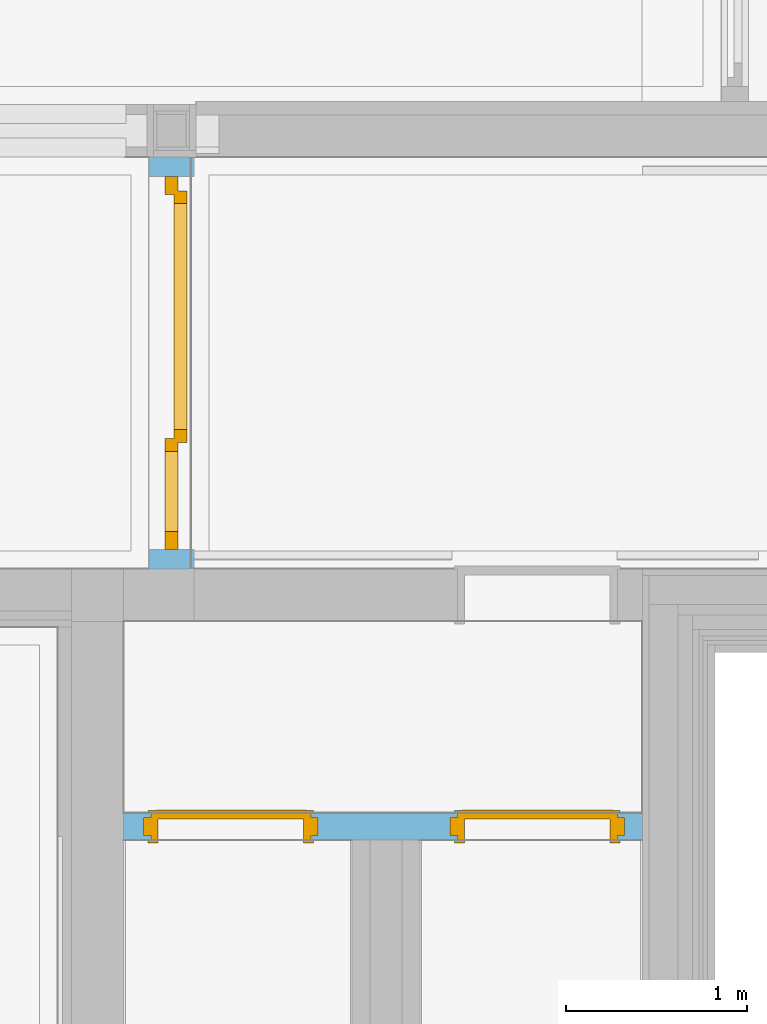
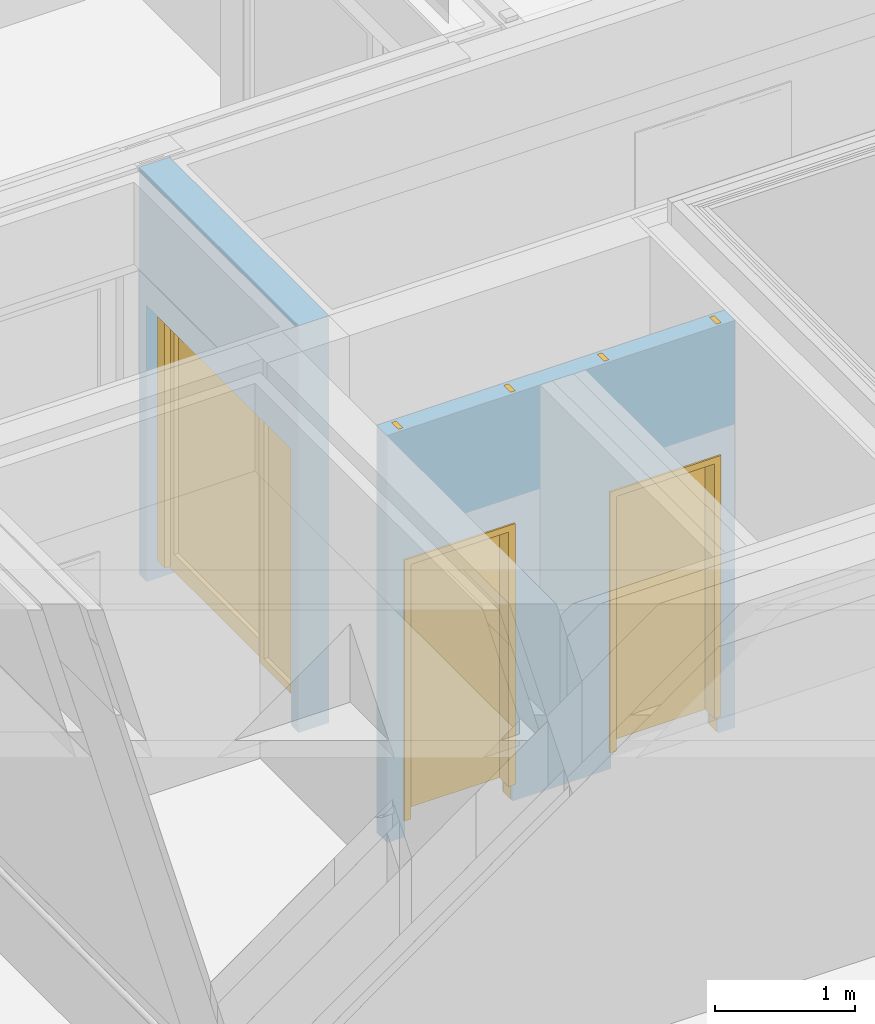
# One storey, part 92 of 222: 3 doors, 3 openings, plus 2 elements that do not belong to this part.
"""IFC4 building model written with IfcOpenShell, lengths in metres."""

from ifc_helpers import new_model, entity, si_unit, converted_unit, derived_unit, frame, frame_2d, origin, origin_with_axes, place, context, subcontext, project, spatial, polyline, rectangle, outline, extrude, closed_shell, open_shell, faceted_brep, surface_model, source, transform, mapped, material, type_object, element, fill, save


model = new_model("IFC4")

# Units and contexts
model_context = context("Model", 3, precision=1e-05, world=origin())
body_context = subcontext(model_context, "Body", "Model", "MODEL_VIEW")
ifc_project = project(units=[si_unit("LENGTHUNIT", "METRE"), si_unit("AREAUNIT", "SQUARE_METRE"), si_unit("VOLUMEUNIT", "CUBIC_METRE"), si_unit("MASSUNIT", "GRAM", prefix="KILO"), converted_unit("PLANEANGLEUNIT", "DEGREE", entity("IfcPlaneAngleMeasure", 0.0174532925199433), si_unit("PLANEANGLEUNIT", "RADIAN"), dimensions=[0, 0, 0, 0, 0, 0, 0]), derived_unit("THERMALTRANSMITTANCEUNIT", [(si_unit("POWERUNIT", "WATT"), 1), (si_unit("THERMODYNAMICTEMPERATUREUNIT", "KELVIN"), -1), (si_unit("LENGTHUNIT", "METRE"), -2)]), derived_unit("VOLUMETRICFLOWRATEUNIT", [(si_unit("LENGTHUNIT", "METRE"), 3), (converted_unit("TIMEUNIT", "hour", entity("IfcTimeMeasure", 3600.0), si_unit("TIMEUNIT", "SECOND"), dimensions=[0, 0, 1, 0, 0, 0, 0]), -1), (si_unit("LENGTHUNIT", "METRE"), -1)])], contexts=[model_context])

# Site, building, storey
site_placement = place(None, origin())
site = spatial("IfcSite", under=ifc_project, at=site_placement, Name="Psychiatrie Neubau Wunstorf", CompositionType="ELEMENT")
building_placement = place(site_placement, origin())
building = spatial("IfcBuilding", under=site, at=building_placement, Name="Neubau H2 Stationsgebäude", CompositionType="ELEMENT")
storey_placement = place(building_placement, frame((0.0, 0.0, 3.6)))
storey = spatial("IfcBuildingStorey", under=building, at=storey_placement, Name="H2 Ebene +1", CompositionType="ELEMENT", Elevation=3.6)

# Wall, opening, door
ifc_material_1 = material(Name="WI-LW 60")
wall_1_placement = place(storey_placement, frame((41.208, 22.8639990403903, 0.0), z_axis=(0.0, 0.0, 1.0), x_axis=(0.0, -1.0, 0.0)))
wall_1 = element("IfcWall", 1, at=wall_1_placement, inside=storey, material=ifc_material_1, context=body_context, shape_type="SweptSolid", body=[
    extrude(rectangle(XDim=2.27800098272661, YDim=0.25, at=frame_2d((1.13900049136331, 0.125), x_axis=(1.0, 0.0))), origin_with_axes(), (0.0, 0.0, 1.0), 3.55),
])
opening_1_placement = place(wall_1_placement, frame((0.107499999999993, 0.0, 0.0), z_axis=(0.0, 1.0, 0.0), x_axis=(0.0, 0.0, 1.0)))
opening_1 = element("IfcOpeningElement", 2, at=opening_1_placement, cuts=wall_1, Name="Türöffnung", ObjectType="Opening", context=body_context, shape_type="SweptSolid", body=[
    extrude(outline(polyline([(2.41, 2.063), (2.41, 0.0), (0.0, 0.0), (0.0, 2.063), (2.41, 2.063)])), origin_with_axes(), (0.0, 0.0, 1.0), 0.25),
])
ifc_material_2 = material(Name="TI-1F-SG-D-M")
shared_shape_1 = source(origin_with_axes(), body_context, "Body", "Brep", [
    faceted_brep([(-0.107499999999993, -0.0450000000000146, 0.0), (-0.0274999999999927, -0.0450000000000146, 0.0), (-0.0274999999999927, 0.114999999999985, 0.0), (-0.107499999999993, 0.114999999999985, 0.0), (-0.107499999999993, 0.114999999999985, 3.55), (-0.0274999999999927, 0.114999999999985, 3.55), (-0.0274999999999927, -0.0450000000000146, 3.55), (-0.107499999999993, -0.0450000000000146, 3.55)], [[[0, 1, 2, 3]], [[4, 5, 6, 7]], [[3, 4, 7, 0]], [[2, 5, 4, 3]], [[1, 6, 5, 2]], [[0, 7, 6, 1]]], orient=[[False], [False], [False], [False], [False], [False]]),
    faceted_brep([(2.09050000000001, -0.0450000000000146, 0.0), (2.17050000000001, -0.0450000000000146, 0.0), (2.17050000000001, 0.114999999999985, 0.0), (2.09050000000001, 0.114999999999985, 0.0), (2.09050000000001, 0.114999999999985, 3.55), (2.17050000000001, 0.114999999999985, 3.55), (2.17050000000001, -0.0450000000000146, 3.55), (2.09050000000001, -0.0450000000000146, 3.55)], [[[0, 1, 2, 3]], [[4, 5, 6, 7]], [[3, 4, 7, 0]], [[2, 5, 4, 3]], [[1, 6, 5, 2]], [[0, 7, 6, 1]]], orient=[[False], [False], [False], [False], [False], [False]]),
    faceted_brep([(-0.0274999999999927, -0.0450000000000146, 2.4375), (2.09050000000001, -0.0450000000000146, 2.4375), (2.09050000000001, 0.114999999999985, 2.4375), (-0.0274999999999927, 0.114999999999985, 2.4375), (-0.0274999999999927, 0.114999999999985, 2.5175), (2.09050000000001, 0.114999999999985, 2.5175), (2.09050000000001, -0.0450000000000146, 2.5175), (-0.0274999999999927, -0.0450000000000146, 2.5175)], [[[0, 1, 2, 3]], [[4, 5, 6, 7]], [[3, 4, 7, 0]], [[2, 5, 4, 3]], [[1, 6, 5, 2]], [[0, 7, 6, 1]]], orient=[[False], [False], [False], [False], [False], [False]]),
])
shared_shape_2 = source(origin_with_axes(), body_context, "Body", "SurfaceModel", [
    surface_model("IfcShellBasedSurfaceModel", [(0.0, 0.0, 2.41), (0.100000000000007, 0.0, 2.41), (0.100000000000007, 0.0, 0.15), (0.0, 0.0, 0.15), (0.0, 0.0699999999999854, 0.15), (0.100000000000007, 0.0699999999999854, 0.15), (0.100000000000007, 0.0699999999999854, 2.41), (0.0, 0.0699999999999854, 2.41)], [closed_shell([[[0, 1, 2, 3]], [[4, 5, 6, 7]], [[3, 4, 7, 0]], [[2, 5, 4, 3]], [[1, 6, 5, 2]], [[0, 7, 6, 1]]], orient=[[False], [False], [False], [False], [False], [False]])]),
    surface_model("IfcShellBasedSurfaceModel", [(1.96300000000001, 0.0, 2.41), (2.06300000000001, 0.0, 2.41), (2.06300000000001, 0.0, 0.15), (1.96300000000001, 0.0, 0.15), (1.96300000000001, 0.0699999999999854, 0.15), (2.06300000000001, 0.0699999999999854, 0.15), (2.06300000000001, 0.0699999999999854, 2.41), (1.96300000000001, 0.0699999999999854, 2.41)], [closed_shell([[[0, 1, 2, 3]], [[4, 5, 6, 7]], [[3, 4, 7, 0]], [[2, 5, 4, 3]], [[1, 6, 5, 2]], [[0, 7, 6, 1]]], orient=[[False], [False], [False], [False], [False], [False]])]),
    surface_model("IfcShellBasedSurfaceModel", [(0.100000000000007, 0.0, 2.41), (1.96300000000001, 0.0, 2.41), (1.96300000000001, 0.0, 2.31), (0.100000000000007, 0.0, 2.31), (0.100000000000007, 0.0699999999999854, 2.31), (1.96300000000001, 0.0699999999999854, 2.31), (1.96300000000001, 0.0699999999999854, 2.41), (0.100000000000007, 0.0699999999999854, 2.41)], [closed_shell([[[0, 1, 2, 3]], [[4, 5, 6, 7]], [[3, 4, 7, 0]], [[2, 5, 4, 3]], [[1, 6, 5, 2]], [[0, 7, 6, 1]]], orient=[[False], [False], [False], [False], [False], [False]])]),
    surface_model("IfcShellBasedSurfaceModel", [(1.45000000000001, 0.0, 2.31), (1.52000000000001, 0.0, 2.31), (1.52000000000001, 0.0, 0.15), (1.45000000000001, 0.0, 0.15), (1.45000000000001, 0.0699999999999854, 0.15), (1.52000000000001, 0.0699999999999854, 0.15), (1.52000000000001, 0.0699999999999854, 2.31), (1.45000000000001, 0.0699999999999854, 2.31)], [closed_shell([[[0, 1, 2, 3]], [[4, 5, 6, 7]], [[3, 4, 7, 0]], [[2, 5, 4, 3]], [[1, 6, 5, 2]], [[0, 7, 6, 1]]], orient=[[False], [False], [False], [False], [False], [False]])]),
    surface_model("IfcShellBasedSurfaceModel", [(0.0800000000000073, 0.0499999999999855, 2.33), (0.150000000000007, 0.0499999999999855, 2.33), (0.150000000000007, 0.0499999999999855, 0.13), (0.0800000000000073, 0.0499999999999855, 0.13), (0.0800000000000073, 0.119999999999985, 0.13), (0.150000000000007, 0.119999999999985, 0.13), (0.150000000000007, 0.119999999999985, 2.33), (0.0800000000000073, 0.119999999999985, 2.33)], [closed_shell([[[0, 1, 2, 3]], [[4, 5, 6, 7]], [[3, 4, 7, 0]], [[2, 5, 4, 3]], [[1, 6, 5, 2]], [[0, 7, 6, 1]]], orient=[[False], [False], [False], [False], [False], [False]])]),
    surface_model("IfcShellBasedSurfaceModel", [(1.40000000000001, 0.0499999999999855, 2.33), (1.47000000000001, 0.0499999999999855, 2.33), (1.47000000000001, 0.0499999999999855, 0.13), (1.40000000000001, 0.0499999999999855, 0.13), (1.40000000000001, 0.119999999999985, 0.13), (1.47000000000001, 0.119999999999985, 0.13), (1.47000000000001, 0.119999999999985, 2.33), (1.40000000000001, 0.119999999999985, 2.33)], [closed_shell([[[0, 1, 2, 3]], [[4, 5, 6, 7]], [[3, 4, 7, 0]], [[2, 5, 4, 3]], [[1, 6, 5, 2]], [[0, 7, 6, 1]]], orient=[[False], [False], [False], [False], [False], [False]])]),
    surface_model("IfcShellBasedSurfaceModel", [(0.150000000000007, 0.0499999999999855, 0.28), (1.40000000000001, 0.0499999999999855, 0.28), (1.40000000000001, 0.0499999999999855, 0.13), (0.150000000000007, 0.0499999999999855, 0.13), (0.150000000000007, 0.119999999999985, 0.13), (1.40000000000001, 0.119999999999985, 0.13), (1.40000000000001, 0.119999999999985, 0.28), (0.150000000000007, 0.119999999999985, 0.28)], [closed_shell([[[0, 1, 2, 3]], [[4, 5, 6, 7]], [[3, 4, 7, 0]], [[2, 5, 4, 3]], [[1, 6, 5, 2]], [[0, 7, 6, 1]]], orient=[[False], [False], [False], [False], [False], [False]])]),
    surface_model("IfcShellBasedSurfaceModel", [(0.150000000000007, 0.0499999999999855, 2.33), (1.40000000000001, 0.0499999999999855, 2.33), (1.40000000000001, 0.0499999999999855, 2.26), (0.150000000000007, 0.0499999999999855, 2.26), (0.150000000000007, 0.119999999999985, 2.26), (1.40000000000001, 0.119999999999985, 2.26), (1.40000000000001, 0.119999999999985, 2.33), (0.150000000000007, 0.119999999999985, 2.33)], [closed_shell([[[0, 1, 2, 3]], [[4, 5, 6, 7]], [[3, 4, 7, 0]], [[2, 5, 4, 3]], [[1, 6, 5, 2]], [[0, 7, 6, 1]]], orient=[[False], [False], [False], [False], [False], [False]])]),
    surface_model("IfcShellBasedSurfaceModel", [(1.52000000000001, 0.0, 0.22), (1.96300000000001, 0.0, 0.22), (1.96300000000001, 0.0, 0.15), (1.52000000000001, 0.0, 0.15), (1.52000000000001, 0.0699999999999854, 0.15), (1.96300000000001, 0.0699999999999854, 0.15), (1.96300000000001, 0.0699999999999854, 0.22), (1.52000000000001, 0.0699999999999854, 0.22)], [closed_shell([[[0, 1, 2, 3]], [[4, 5, 6, 7]], [[3, 4, 7, 0]], [[2, 5, 4, 3]], [[1, 6, 5, 2]], [[0, 7, 6, 1]]], orient=[[False], [False], [False], [False], [False], [False]])]),
    surface_model("IfcShellBasedSurfaceModel", [(0.150000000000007, 0.0849999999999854, 0.28), (0.150000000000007, 0.0849999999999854, 2.26), (1.40000000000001, 0.0849999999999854, 2.26), (1.40000000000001, 0.0849999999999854, 0.28)], [open_shell([[[0, 1, 2, 3]]], orient=[[False]])]),
    surface_model("IfcShellBasedSurfaceModel", [(1.52000000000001, 0.0349999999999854, 0.22), (1.52000000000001, 0.0349999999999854, 2.31), (1.96300000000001, 0.0349999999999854, 2.31), (1.96300000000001, 0.0349999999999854, 0.22)], [open_shell([[[0, 1, 2, 3]]], orient=[[False]])]),
])
door_1_placement = place(opening_1_placement, frame((0.0, 0.0, 0.09), z_axis=(1.0, 0.0, 0.0), x_axis=(0.0, 1.0, 0.0)))
door_1 = element("IfcDoor", 3, at=door_1_placement, inside=storey, material=ifc_material_2, Name="SMT", OperationType="USERDEFINED", OverallHeight=2.41, OverallWidth=2.063, PredefinedType="DOOR", context=body_context, shape_type="MappedRepresentation", body=[
    mapped(shared_shape_1, transform((0.0, 0.0, 0.0), x_axis=(1.0, 0.0, 0.0), y_axis=(0.0, 1.0, 0.0), z_axis=(0.0, 0.0, 1.0), scale=1.0)),
    mapped(shared_shape_2, transform((0.0, 0.0, 0.0), x_axis=(1.0, 0.0, 0.0), y_axis=(0.0, 1.0, 0.0), z_axis=(0.0, 0.0, 1.0), scale=1.0)),
])
fill(opening_1, door_1)

# Wall, openings, doors
ifc_material_3 = material(Name="WI-LB")
wall_2_placement = place(storey_placement, frame((43.9390000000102, 19.2350060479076, 0.0), z_axis=(0.0, 0.0, 1.0), x_axis=(-1.0, 0.0, 0.0)))
wall_2 = element("IfcWall", 4, at=wall_2_placement, inside=storey, material=ifc_material_3, context=body_context, shape_type="SweptSolid", body=[
    extrude(rectangle(XDim=2.87000000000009, YDim=0.15, at=frame_2d((1.43500000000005, 0.075), x_axis=(1.0, 0.0))), origin_with_axes(), (0.0, 0.0, 1.0), 3.55),
])
opening_2_placement = place(wall_2_placement, frame((1.02400000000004, 0.15, 0.0), z_axis=(0.0, -1.0, 0.0), x_axis=(0.0, 0.0, 1.0)))
opening_2 = element("IfcOpeningElement", 5, at=opening_2_placement, cuts=wall_2, Name="Türöffnung", ObjectType="Opening", context=body_context, shape_type="SweptSolid", body=[
    extrude(outline(polyline([(2.41, 0.885), (2.41, 0.0), (0.0, 0.0), (0.0, 0.885), (2.41, 0.885)])), origin_with_axes(), (0.0, 0.0, 1.0), 0.149999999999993),
])
opening_3_placement = place(wall_2_placement, frame((2.72000000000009, 0.15, 0.0), z_axis=(0.0, -1.0, 0.0), x_axis=(0.0, 0.0, 1.0)))
opening_3 = element("IfcOpeningElement", 6, at=opening_3_placement, cuts=wall_2, Name="Türöffnung", ObjectType="Opening", context=body_context, shape_type="SweptSolid", body=[
    extrude(outline(polyline([(2.41, 0.885), (2.41, 0.0), (0.0, 0.0), (0.0, 0.885), (2.41, 0.885)])), origin_with_axes(), (0.0, 0.0, 1.0), 0.149999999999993),
])
ifc_material_4 = material(Name="TI-1F-UZ-D-N")
door_type_1 = type_object("IfcDoorType", Name="SMT", OperationType="SINGLE_SWING_RIGHT", ParameterTakesPrecedence=False, PredefinedType="DOOR")
shared_shape_3 = source(origin_with_axes(), body_context, "Body", "Brep", [
    faceted_brep([(0.925, 0.025, 0.0), (0.925, 0.124999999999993, 0.0), (0.885, 0.124999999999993, 0.0), (0.885, 0.025, 0.0), (0.925, 0.124999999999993, 3.55), (0.925, 0.025, 3.55), (0.885, 0.025, 3.55), (0.885, 0.124999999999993, 3.55)], [[[0, 1, 2, 3]], [[4, 5, 6, 7]], [[1, 0, 5, 4]], [[2, 1, 4, 7]], [[3, 2, 7, 6]], [[0, 3, 6, 5]]], orient=[[False], [False], [False], [False], [False], [False]]),
    faceted_brep([(0.0, 0.025, 0.0), (0.0, 0.124999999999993, 0.0), (-0.0400000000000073, 0.124999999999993, 0.0), (-0.0400000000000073, 0.025, 0.0), (0.0, 0.124999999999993, 3.55), (0.0, 0.025, 3.55), (-0.0400000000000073, 0.025, 3.55), (-0.0400000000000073, 0.124999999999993, 3.55)], [[[0, 1, 2, 3]], [[4, 5, 6, 7]], [[1, 0, 5, 4]], [[2, 1, 4, 7]], [[3, 2, 7, 6]], [[0, 3, 6, 5]]], orient=[[False], [False], [False], [False], [False], [False]]),
    faceted_brep([(0.885, 0.025, 2.41), (0.885, 0.124999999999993, 2.41), (0.0, 0.124999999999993, 2.41), (0.0, 0.025, 2.41), (0.885, 0.124999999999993, 2.45), (0.885, 0.025, 2.45), (0.0, 0.025, 2.45), (0.0, 0.124999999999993, 2.45)], [[[0, 1, 2, 3]], [[4, 5, 6, 7]], [[1, 0, 5, 4]], [[2, 1, 4, 7]], [[3, 2, 7, 6]], [[0, 3, 6, 5]]], orient=[[False], [False], [False], [False], [False], [False]]),
])
shared_shape_4 = source(origin_with_axes(), body_context, "Body", "Brep", [
    faceted_brep([(0.885, -0.015, 2.41), (0.885, -0.015, 0.15), (0.845, -0.015, 0.15), (0.845, -0.015, 2.41), (0.885, 0.164999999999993, 0.15), (0.885, 0.164999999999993, 2.41), (0.845, 0.164999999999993, 2.41), (0.845, 0.164999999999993, 0.15)], [[[0, 1, 2, 3]], [[4, 5, 6, 7]], [[1, 0, 5, 4]], [[2, 1, 4, 7]], [[3, 2, 7, 6]], [[0, 3, 6, 5]]], orient=[[False], [False], [False], [False], [False], [False]]),
    faceted_brep([(0.885, -0.015, 2.425), (0.9, -0.015, 2.425), (0.9, -0.015, 0.15), (0.885, -0.015, 0.15), (0.885, 0.0, 0.15), (0.9, 0.0, 0.15), (0.9, 0.0, 2.425), (0.885, 0.0, 2.425)], [[[0, 1, 2, 3]], [[4, 5, 6, 7]], [[3, 4, 7, 0]], [[2, 5, 4, 3]], [[1, 6, 5, 2]], [[0, 7, 6, 1]]], orient=[[False], [False], [False], [False], [False], [False]]),
    faceted_brep([(0.885, 0.149999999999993, 2.425), (0.9, 0.149999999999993, 2.425), (0.9, 0.149999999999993, 0.15), (0.885, 0.149999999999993, 0.15), (0.885, 0.164999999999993, 0.15), (0.9, 0.164999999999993, 0.15), (0.9, 0.164999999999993, 2.425), (0.885, 0.164999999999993, 2.425)], [[[0, 1, 2, 3]], [[4, 5, 6, 7]], [[3, 4, 7, 0]], [[2, 5, 4, 3]], [[1, 6, 5, 2]], [[0, 7, 6, 1]]], orient=[[False], [False], [False], [False], [False], [False]]),
    faceted_brep([(0.0399999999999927, -0.015, 2.41), (0.0399999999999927, -0.015, 0.15), (0.0, -0.015, 0.15), (0.0, -0.015, 2.41), (0.0399999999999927, 0.164999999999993, 0.15), (0.0399999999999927, 0.164999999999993, 2.41), (0.0, 0.164999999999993, 2.41), (0.0, 0.164999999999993, 0.15)], [[[0, 1, 2, 3]], [[4, 5, 6, 7]], [[1, 0, 5, 4]], [[2, 1, 4, 7]], [[3, 2, 7, 6]], [[0, 3, 6, 5]]], orient=[[False], [False], [False], [False], [False], [False]]),
    faceted_brep([(0.0, -0.015, 2.425), (0.0, -0.015, 0.15), (-0.0150000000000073, -0.015, 0.15), (-0.0150000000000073, -0.015, 2.425), (0.0, 0.0, 0.15), (0.0, 0.0, 2.425), (-0.0150000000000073, 0.0, 2.425), (-0.0150000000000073, 0.0, 0.15)], [[[0, 1, 2, 3]], [[4, 5, 6, 7]], [[1, 0, 5, 4]], [[2, 1, 4, 7]], [[3, 2, 7, 6]], [[0, 3, 6, 5]]], orient=[[False], [False], [False], [False], [False], [False]]),
    faceted_brep([(0.0, 0.149999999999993, 2.425), (0.0, 0.149999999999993, 0.15), (-0.0150000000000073, 0.149999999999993, 0.15), (-0.0150000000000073, 0.149999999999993, 2.425), (0.0, 0.164999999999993, 0.15), (0.0, 0.164999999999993, 2.425), (-0.0150000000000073, 0.164999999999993, 2.425), (-0.0150000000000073, 0.164999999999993, 0.15)], [[[0, 1, 2, 3]], [[4, 5, 6, 7]], [[1, 0, 5, 4]], [[2, 1, 4, 7]], [[3, 2, 7, 6]], [[0, 3, 6, 5]]], orient=[[False], [False], [False], [False], [False], [False]]),
    faceted_brep([(0.845, -0.015, 2.41), (0.845, -0.015, 2.37), (0.0399999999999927, -0.015, 2.37), (0.0399999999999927, -0.015, 2.41), (0.845, 0.164999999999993, 2.37), (0.845, 0.164999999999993, 2.41), (0.0399999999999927, 0.164999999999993, 2.41), (0.0399999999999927, 0.164999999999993, 2.37)], [[[0, 1, 2, 3]], [[4, 5, 6, 7]], [[1, 0, 5, 4]], [[2, 1, 4, 7]], [[3, 2, 7, 6]], [[0, 3, 6, 5]]], orient=[[False], [False], [False], [False], [False], [False]]),
    faceted_brep([(0.885, -0.015, 2.425), (0.885, -0.015, 2.41), (0.0, -0.015, 2.41), (0.0, -0.015, 2.425), (0.885, 0.0, 2.41), (0.885, 0.0, 2.425), (0.0, 0.0, 2.425), (0.0, 0.0, 2.41)], [[[0, 1, 2, 3]], [[4, 5, 6, 7]], [[1, 0, 5, 4]], [[2, 1, 4, 7]], [[3, 2, 7, 6]], [[0, 3, 6, 5]]], orient=[[False], [False], [False], [False], [False], [False]]),
    faceted_brep([(0.885, 0.149999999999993, 2.425), (0.885, 0.149999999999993, 2.41), (0.0, 0.149999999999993, 2.41), (0.0, 0.149999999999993, 2.425), (0.885, 0.164999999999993, 2.41), (0.885, 0.164999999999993, 2.425), (0.0, 0.164999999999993, 2.425), (0.0, 0.164999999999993, 2.41)], [[[0, 1, 2, 3]], [[4, 5, 6, 7]], [[1, 0, 5, 4]], [[2, 1, 4, 7]], [[3, 2, 7, 6]], [[0, 3, 6, 5]]], orient=[[False], [False], [False], [False], [False], [False]]),
    faceted_brep([(0.86, 0.115999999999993, 2.385), (0.86, 0.115999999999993, 0.15), (0.0249999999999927, 0.115999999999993, 0.15), (0.0249999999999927, 0.115999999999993, 2.385), (0.86, 0.165999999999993, 0.15), (0.86, 0.165999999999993, 2.385), (0.0249999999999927, 0.165999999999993, 2.385), (0.0249999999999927, 0.165999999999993, 0.15)], [[[0, 1, 2, 3]], [[4, 5, 6, 7]], [[1, 0, 5, 4]], [[2, 1, 4, 7]], [[3, 2, 7, 6]], [[0, 3, 6, 5]]], orient=[[False], [False], [False], [False], [False], [False]]),
])
door_2_placement = place(opening_2_placement, frame((0.0, 0.0, 0.0), z_axis=(1.0, 0.0, 0.0), x_axis=(0.0, 1.0, 0.0)))
door_2 = element("IfcDoor", 7, at=door_2_placement, inside=storey, type_object=door_type_1, material=ifc_material_4, Name="SMT", OverallHeight=2.41, OverallWidth=0.885, context=body_context, shape_type="MappedRepresentation", body=[
    mapped(shared_shape_3, transform((0.0, 0.0, 0.0), x_axis=(1.0, 0.0, 0.0), y_axis=(0.0, 1.0, 0.0), z_axis=(0.0, 0.0, 1.0), scale=1.0)),
    mapped(shared_shape_4, transform((0.0, 0.0, 0.0), x_axis=(1.0, 0.0, 0.0), y_axis=(0.0, 1.0, 0.0), z_axis=(0.0, 0.0, 1.0), scale=1.0)),
])
fill(opening_2, door_2)
ifc_material_5 = material(Name="TI-1F-UZ-D-N")
door_type_2 = type_object("IfcDoorType", Name="SMT", OperationType="SINGLE_SWING_RIGHT", ParameterTakesPrecedence=False, PredefinedType="DOOR")
shared_shape_5 = source(origin_with_axes(), body_context, "Body", "Brep", [
    faceted_brep([(0.925, 0.025, 0.0), (0.925, 0.124999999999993, 0.0), (0.885, 0.124999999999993, 0.0), (0.885, 0.025, 0.0), (0.925, 0.124999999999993, 3.55), (0.925, 0.025, 3.55), (0.885, 0.025, 3.55), (0.885, 0.124999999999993, 3.55)], [[[0, 1, 2, 3]], [[4, 5, 6, 7]], [[1, 0, 5, 4]], [[2, 1, 4, 7]], [[3, 2, 7, 6]], [[0, 3, 6, 5]]], orient=[[False], [False], [False], [False], [False], [False]]),
    faceted_brep([(0.0, 0.025, 0.0), (0.0, 0.124999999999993, 0.0), (-0.0400000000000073, 0.124999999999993, 0.0), (-0.0400000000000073, 0.025, 0.0), (0.0, 0.124999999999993, 3.55), (0.0, 0.025, 3.55), (-0.0400000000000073, 0.025, 3.55), (-0.0400000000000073, 0.124999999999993, 3.55)], [[[0, 1, 2, 3]], [[4, 5, 6, 7]], [[1, 0, 5, 4]], [[2, 1, 4, 7]], [[3, 2, 7, 6]], [[0, 3, 6, 5]]], orient=[[False], [False], [False], [False], [False], [False]]),
    faceted_brep([(0.885, 0.025, 2.41), (0.885, 0.124999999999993, 2.41), (0.0, 0.124999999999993, 2.41), (0.0, 0.025, 2.41), (0.885, 0.124999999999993, 2.45), (0.885, 0.025, 2.45), (0.0, 0.025, 2.45), (0.0, 0.124999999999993, 2.45)], [[[0, 1, 2, 3]], [[4, 5, 6, 7]], [[1, 0, 5, 4]], [[2, 1, 4, 7]], [[3, 2, 7, 6]], [[0, 3, 6, 5]]], orient=[[False], [False], [False], [False], [False], [False]]),
])
shared_shape_6 = source(origin_with_axes(), body_context, "Body", "Brep", [
    faceted_brep([(0.0, -0.015, 2.41), (0.0399999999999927, -0.015, 2.41), (0.0399999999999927, -0.015, 0.15), (0.0, -0.015, 0.15), (0.0, 0.164999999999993, 0.15), (0.0399999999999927, 0.164999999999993, 0.15), (0.0399999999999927, 0.164999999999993, 2.41), (0.0, 0.164999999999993, 2.41)], [[[0, 1, 2, 3]], [[4, 5, 6, 7]], [[3, 4, 7, 0]], [[2, 5, 4, 3]], [[1, 6, 5, 2]], [[0, 7, 6, 1]]], orient=[[False], [False], [False], [False], [False], [False]]),
    faceted_brep([(0.0, -0.015, 2.425), (0.0, -0.015, 0.15), (-0.0150000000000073, -0.015, 0.15), (-0.0150000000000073, -0.015, 2.425), (0.0, 0.0, 0.15), (0.0, 0.0, 2.425), (-0.0150000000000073, 0.0, 2.425), (-0.0150000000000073, 0.0, 0.15)], [[[0, 1, 2, 3]], [[4, 5, 6, 7]], [[1, 0, 5, 4]], [[2, 1, 4, 7]], [[3, 2, 7, 6]], [[0, 3, 6, 5]]], orient=[[False], [False], [False], [False], [False], [False]]),
    faceted_brep([(0.0, 0.149999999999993, 2.425), (0.0, 0.149999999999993, 0.15), (-0.0150000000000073, 0.149999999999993, 0.15), (-0.0150000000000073, 0.149999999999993, 2.425), (0.0, 0.164999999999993, 0.15), (0.0, 0.164999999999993, 2.425), (-0.0150000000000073, 0.164999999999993, 2.425), (-0.0150000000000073, 0.164999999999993, 0.15)], [[[0, 1, 2, 3]], [[4, 5, 6, 7]], [[1, 0, 5, 4]], [[2, 1, 4, 7]], [[3, 2, 7, 6]], [[0, 3, 6, 5]]], orient=[[False], [False], [False], [False], [False], [False]]),
    faceted_brep([(0.845, -0.015, 2.41), (0.885, -0.015, 2.41), (0.885, -0.015, 0.15), (0.845, -0.015, 0.15), (0.845, 0.164999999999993, 0.15), (0.885, 0.164999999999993, 0.15), (0.885, 0.164999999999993, 2.41), (0.845, 0.164999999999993, 2.41)], [[[0, 1, 2, 3]], [[4, 5, 6, 7]], [[3, 4, 7, 0]], [[2, 5, 4, 3]], [[1, 6, 5, 2]], [[0, 7, 6, 1]]], orient=[[False], [False], [False], [False], [False], [False]]),
    faceted_brep([(0.885, -0.015, 2.425), (0.9, -0.015, 2.425), (0.9, -0.015, 0.15), (0.885, -0.015, 0.15), (0.885, 0.0, 0.15), (0.9, 0.0, 0.15), (0.9, 0.0, 2.425), (0.885, 0.0, 2.425)], [[[0, 1, 2, 3]], [[4, 5, 6, 7]], [[3, 4, 7, 0]], [[2, 5, 4, 3]], [[1, 6, 5, 2]], [[0, 7, 6, 1]]], orient=[[False], [False], [False], [False], [False], [False]]),
    faceted_brep([(0.885, 0.149999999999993, 2.425), (0.9, 0.149999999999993, 2.425), (0.9, 0.149999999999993, 0.15), (0.885, 0.149999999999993, 0.15), (0.885, 0.164999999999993, 0.15), (0.9, 0.164999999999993, 0.15), (0.9, 0.164999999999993, 2.425), (0.885, 0.164999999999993, 2.425)], [[[0, 1, 2, 3]], [[4, 5, 6, 7]], [[3, 4, 7, 0]], [[2, 5, 4, 3]], [[1, 6, 5, 2]], [[0, 7, 6, 1]]], orient=[[False], [False], [False], [False], [False], [False]]),
    faceted_brep([(0.0399999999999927, -0.015, 2.41), (0.845, -0.015, 2.41), (0.845, -0.015, 2.37), (0.0399999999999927, -0.015, 2.37), (0.0399999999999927, 0.164999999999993, 2.37), (0.845, 0.164999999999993, 2.37), (0.845, 0.164999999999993, 2.41), (0.0399999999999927, 0.164999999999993, 2.41)], [[[0, 1, 2, 3]], [[4, 5, 6, 7]], [[3, 4, 7, 0]], [[2, 5, 4, 3]], [[1, 6, 5, 2]], [[0, 7, 6, 1]]], orient=[[False], [False], [False], [False], [False], [False]]),
    faceted_brep([(0.0, -0.015, 2.425), (0.885, -0.015, 2.425), (0.885, -0.015, 2.41), (0.0, -0.015, 2.41), (0.0, 0.0, 2.41), (0.885, 0.0, 2.41), (0.885, 0.0, 2.425), (0.0, 0.0, 2.425)], [[[0, 1, 2, 3]], [[4, 5, 6, 7]], [[3, 4, 7, 0]], [[2, 5, 4, 3]], [[1, 6, 5, 2]], [[0, 7, 6, 1]]], orient=[[False], [False], [False], [False], [False], [False]]),
    faceted_brep([(0.0, 0.149999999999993, 2.425), (0.885, 0.149999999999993, 2.425), (0.885, 0.149999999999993, 2.41), (0.0, 0.149999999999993, 2.41), (0.0, 0.164999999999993, 2.41), (0.885, 0.164999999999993, 2.41), (0.885, 0.164999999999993, 2.425), (0.0, 0.164999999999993, 2.425)], [[[0, 1, 2, 3]], [[4, 5, 6, 7]], [[3, 4, 7, 0]], [[2, 5, 4, 3]], [[1, 6, 5, 2]], [[0, 7, 6, 1]]], orient=[[False], [False], [False], [False], [False], [False]]),
    faceted_brep([(0.0249999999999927, 0.115999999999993, 2.385), (0.86, 0.115999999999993, 2.385), (0.86, 0.115999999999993, 0.15), (0.0249999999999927, 0.115999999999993, 0.15), (0.0249999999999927, 0.165999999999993, 0.15), (0.86, 0.165999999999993, 0.15), (0.86, 0.165999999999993, 2.385), (0.0249999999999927, 0.165999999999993, 2.385)], [[[0, 1, 2, 3]], [[4, 5, 6, 7]], [[3, 4, 7, 0]], [[2, 5, 4, 3]], [[1, 6, 5, 2]], [[0, 7, 6, 1]]], orient=[[False], [False], [False], [False], [False], [False]]),
])
door_3_placement = place(opening_3_placement, frame((0.0, 0.0, 0.0), z_axis=(1.0, 0.0, 0.0), x_axis=(0.0, 1.0, 0.0)))
door_3 = element("IfcDoor", 8, at=door_3_placement, inside=storey, type_object=door_type_2, material=ifc_material_5, Name="SMT", OverallHeight=2.41, OverallWidth=0.885, context=body_context, shape_type="MappedRepresentation", body=[
    mapped(shared_shape_5, transform((0.0, 0.0, 0.0), x_axis=(1.0, 0.0, 0.0), y_axis=(0.0, 1.0, 0.0), z_axis=(0.0, 0.0, 1.0), scale=1.0)),
    mapped(shared_shape_6, transform((0.0, 0.0, 0.0), x_axis=(1.0, 0.0, 0.0), y_axis=(0.0, 1.0, 0.0), z_axis=(0.0, 0.0, 1.0), scale=1.0)),
])
fill(opening_3, door_3)

save(model, "model.ifc")
